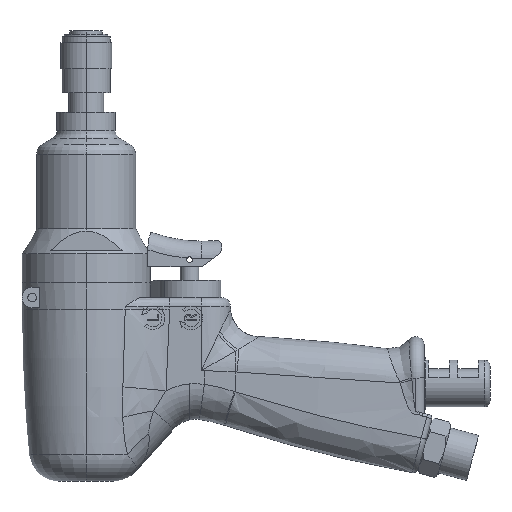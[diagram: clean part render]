
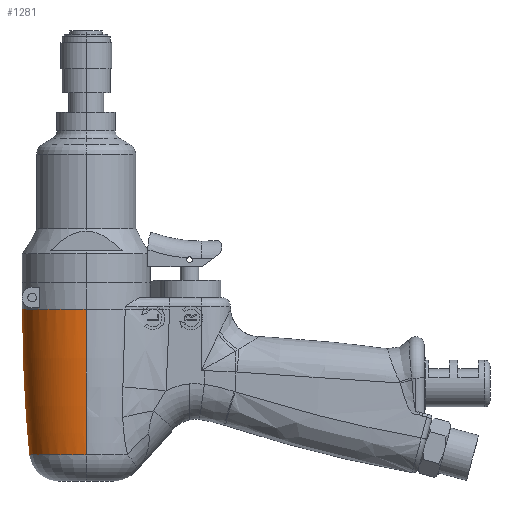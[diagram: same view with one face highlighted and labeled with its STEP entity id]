
A CAD part, left-side view. The second image highlights one B-rep face of the part: STEP entity #1281.
In plain terms, the highlighted toroidal (fillet/blend) face has major radius 478 mm and minor radius 500 mm.
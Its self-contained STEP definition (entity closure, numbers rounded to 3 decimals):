
#1 = VERTEX_POINT ( 'NONE', #2518 ) ;
#6 = VERTEX_POINT ( 'NONE', #2567 ) ;
#61 = EDGE_CURVE ( 'NONE', #6, #1, #2692, .T. ) ;
#1271 = EDGE_CURVE ( 'NONE', #1360, #1272, #5227, .T. ) ;
#1272 = VERTEX_POINT ( 'NONE', #5226 ) ;
#1273 = ORIENTED_EDGE ( 'NONE', *, *, #1274, .T. ) ;
#1274 = EDGE_CURVE ( 'NONE', #1272, #1275, #5283, .T. ) ;
#1275 = VERTEX_POINT ( 'NONE', #5282 ) ;
#1276 = ORIENTED_EDGE ( 'NONE', *, *, #1277, .F. ) ;
#1277 = EDGE_CURVE ( 'NONE', #14606, #1275, #5281, .T. ) ;
#1281 = ADVANCED_FACE ( 'NONE', ( #5263 ), #5262, .T. ) ;
#1282 = EDGE_LOOP ( 'NONE', ( #1283, #1284, #1286, #1287, #1290, #1293, #1358, #1361, #1273, #1276 ) ) ;
#1283 = ORIENTED_EDGE ( 'NONE', *, *, #14604, .T. ) ;
#1284 = ORIENTED_EDGE ( 'NONE', *, *, #1285, .T. ) ;
#1285 = EDGE_CURVE ( 'NONE', #14639, #1, #5255, .T. ) ;
#1286 = ORIENTED_EDGE ( 'NONE', *, *, #61, .F. ) ;
#1287 = ORIENTED_EDGE ( 'NONE', *, *, #1288, .T. ) ;
#1288 = EDGE_CURVE ( 'NONE', #6, #1289, #5308, .T. ) ;
#1289 = VERTEX_POINT ( 'NONE', #5307 ) ;
#1290 = ORIENTED_EDGE ( 'NONE', *, *, #1291, .T. ) ;
#1291 = EDGE_CURVE ( 'NONE', #1289, #1292, #5302, .T. ) ;
#1292 = VERTEX_POINT ( 'NONE', #5301 ) ;
#1293 = ORIENTED_EDGE ( 'NONE', *, *, #1356, .T. ) ;
#1356 = EDGE_CURVE ( 'NONE', #1292, #1357, #5424, .T. ) ;
#1357 = VERTEX_POINT ( 'NONE', #5423 ) ;
#1358 = ORIENTED_EDGE ( 'NONE', *, *, #1359, .T. ) ;
#1359 = EDGE_CURVE ( 'NONE', #1357, #1360, #5415, .T. ) ;
#1360 = VERTEX_POINT ( 'NONE', #5416 ) ;
#1361 = ORIENTED_EDGE ( 'NONE', *, *, #1271, .T. ) ;
#2518 = CARTESIAN_POINT ( 'NONE',  ( -22., 0., -9. ) ) ;
#2567 = CARTESIAN_POINT ( 'NONE',  ( 19.267, 10.621, -9. ) ) ;
#2688 = DIRECTION ( 'NONE',  ( 1., 0., 0. ) ) ;
#2689 = DIRECTION ( 'NONE',  ( 0., 0., 1. ) ) ;
#2690 = CARTESIAN_POINT ( 'NONE',  ( 0., 0., -9. ) ) ;
#2691 = AXIS2_PLACEMENT_3D ( 'NONE', #2690, #2689, #2688 ) ;
#2692 = CIRCLE ( 'NONE', #2691, 22. ) ;
#5222 = CARTESIAN_POINT ( 'NONE',  ( 19.212, 5.419, -54.102 ) ) ;
#5223 = CARTESIAN_POINT ( 'NONE',  ( 19.07, 5.916, -54.125 ) ) ;
#5224 = CARTESIAN_POINT ( 'NONE',  ( 18.918, 6.4, -54.064 ) ) ;
#5225 = CARTESIAN_POINT ( 'NONE',  ( 18.759, 6.871, -53.921 ) ) ;
#5226 = CARTESIAN_POINT ( 'NONE',  ( 19.212, 5.419, -54.102 ) ) ;
#5227 = B_SPLINE_CURVE_WITH_KNOTS ( 'NONE', 3,
 ( #5225, #5224, #5223, #5222 ),
 .UNSPECIFIED., .F., .F.,
 ( 4, 4 ),
 ( 0., 0.002 ),
 .UNSPECIFIED. ) ;
#5252 = DIRECTION ( 'NONE',  ( -1., 0., 0. ) ) ;
#5253 = DIRECTION ( 'NONE',  ( 0., 1., 0. ) ) ;
#5254 = AXIS2_PLACEMENT_3D ( 'NONE', #5261, #5253, #5252 ) ;
#5255 = CIRCLE ( 'NONE', #5254, 500. ) ;
#5257 = DIRECTION ( 'NONE',  ( 1., 0., 0. ) ) ;
#5258 = DIRECTION ( 'NONE',  ( 0., 0., 1. ) ) ;
#5259 = CARTESIAN_POINT ( 'NONE',  ( 0., 0., -9. ) ) ;
#5260 = AXIS2_PLACEMENT_3D ( 'NONE', #5259, #5258, #5257 ) ;
#5261 = CARTESIAN_POINT ( 'NONE',  ( 478., 0., -9. ) ) ;
#5262 = TOROIDAL_SURFACE ( 'NONE', #5260, -478., 500. ) ;
#5263 = FACE_OUTER_BOUND ( 'NONE', #1282, .T. ) ;
#5270 = DIRECTION ( 'NONE',  ( 0., 0., -1. ) ) ;
#5271 = DIRECTION ( 'NONE',  ( 0., -1., 0. ) ) ;
#5272 = CARTESIAN_POINT ( 'NONE',  ( -478., 0., -9. ) ) ;
#5273 = AXIS2_PLACEMENT_3D ( 'NONE', #5272, #5271, #5270 ) ;
#5275 = CARTESIAN_POINT ( 'NONE',  ( 19.983, 0., -53.862 ) ) ;
#5276 = CARTESIAN_POINT ( 'NONE',  ( 19.983, 0.923, -53.862 ) ) ;
#5277 = CARTESIAN_POINT ( 'NONE',  ( 19.917, 1.835, -53.896 ) ) ;
#5278 = CARTESIAN_POINT ( 'NONE',  ( 19.658, 3.64, -53.995 ) ) ;
#5279 = CARTESIAN_POINT ( 'NONE',  ( 19.466, 4.533, -54.06 ) ) ;
#5280 = CARTESIAN_POINT ( 'NONE',  ( 19.212, 5.419, -54.102 ) ) ;
#5281 = CIRCLE ( 'NONE', #5273, 500. ) ;
#5282 = CARTESIAN_POINT ( 'NONE',  ( 19.983, 0., -53.862 ) ) ;
#5283 = B_SPLINE_CURVE_WITH_KNOTS ( 'NONE', 3,
 ( #5280, #5279, #5278, #5277, #5276, #5275 ),
 .UNSPECIFIED., .F., .F.,
 ( 4, 2, 4 ),
 ( 0., 0.003, 0.005 ),
 .UNSPECIFIED. ) ;
#5294 = CARTESIAN_POINT ( 'NONE',  ( 18.788, 11.422, -12.472 ) ) ;
#5295 = CARTESIAN_POINT ( 'NONE',  ( 18.792, 11.422, -12.042 ) ) ;
#5296 = CARTESIAN_POINT ( 'NONE',  ( 18.815, 11.389, -11.618 ) ) ;
#5297 = CARTESIAN_POINT ( 'NONE',  ( 18.899, 11.256, -10.779 ) ) ;
#5298 = CARTESIAN_POINT ( 'NONE',  ( 18.961, 11.155, -10.364 ) ) ;
#5299 = CARTESIAN_POINT ( 'NONE',  ( 19.038, 11.023, -9.963 ) ) ;
#5301 = CARTESIAN_POINT ( 'NONE',  ( 18.788, 11.422, -12.472 ) ) ;
#5302 = B_SPLINE_CURVE_WITH_KNOTS ( 'NONE', 3,
 ( #5299, #5298, #5297, #5296, #5295, #5294 ),
 .UNSPECIFIED., .F., .F.,
 ( 4, 2, 4 ),
 ( 0., 0.001, 0.003 ),
 .UNSPECIFIED. ) ;
#5303 = CARTESIAN_POINT ( 'NONE',  ( 19.038, 11.023, -9.963 ) ) ;
#5304 = CARTESIAN_POINT ( 'NONE',  ( 19.103, 10.912, -9.628 ) ) ;
#5305 = CARTESIAN_POINT ( 'NONE',  ( 19.179, 10.779, -9.307 ) ) ;
#5306 = CARTESIAN_POINT ( 'NONE',  ( 19.267, 10.621, -9. ) ) ;
#5307 = CARTESIAN_POINT ( 'NONE',  ( 19.038, 11.023, -9.963 ) ) ;
#5308 = B_SPLINE_CURVE_WITH_KNOTS ( 'NONE', 3,
 ( #5306, #5305, #5304, #5303 ),
 .UNSPECIFIED., .F., .F.,
 ( 4, 4 ),
 ( 0.007, 0.008 ),
 .UNSPECIFIED. ) ;
#5414 = CARTESIAN_POINT ( 'NONE',  ( 17.148, 11.305, -47.194 ) ) ;
#5415 = B_SPLINE_CURVE_WITH_KNOTS ( 'NONE', 3,
 ( #5414, #5478, #5477, #5476, #5475, #5474, #5473, #5472, #5471, #5470, #5469, #5468, #5467, #5466, #5465, #5464, #5463, #5462 ),
 .UNSPECIFIED., .F., .F.,
 ( 4, 2, 2, 2, 2, 2, 2, 2, 4 ),
 ( 0., 0.001, 0.002, 0.003, 0.004, 0.005, 0.007, 0.008, 0.009 ),
 .UNSPECIFIED. ) ;
#5416 = CARTESIAN_POINT ( 'NONE',  ( 18.759, 6.871, -53.921 ) ) ;
#5417 = CARTESIAN_POINT ( 'NONE',  ( 17.148, 11.305, -47.194 ) ) ;
#5418 = CARTESIAN_POINT ( 'NONE',  ( 17.653, 11.343, -41.42 ) ) ;
#5419 = CARTESIAN_POINT ( 'NONE',  ( 18.04, 11.37, -35.639 ) ) ;
#5420 = CARTESIAN_POINT ( 'NONE',  ( 18.585, 11.408, -24.064 ) ) ;
#5421 = CARTESIAN_POINT ( 'NONE',  ( 18.743, 11.419, -18.269 ) ) ;
#5422 = CARTESIAN_POINT ( 'NONE',  ( 18.788, 11.422, -12.472 ) ) ;
#5423 = CARTESIAN_POINT ( 'NONE',  ( 17.148, 11.305, -47.194 ) ) ;
#5424 = B_SPLINE_CURVE_WITH_KNOTS ( 'NONE', 3,
 ( #5422, #5421, #5420, #5419, #5418, #5417 ),
 .UNSPECIFIED., .F., .F.,
 ( 4, 2, 4 ),
 ( 0., 0.017, 0.035 ),
 .UNSPECIFIED. ) ;
#5462 = CARTESIAN_POINT ( 'NONE',  ( 18.759, 6.871, -53.921 ) ) ;
#5463 = CARTESIAN_POINT ( 'NONE',  ( 18.645, 7.209, -53.818 ) ) ;
#5464 = CARTESIAN_POINT ( 'NONE',  ( 18.529, 7.535, -53.679 ) ) ;
#5465 = CARTESIAN_POINT ( 'NONE',  ( 18.3, 8.149, -53.348 ) ) ;
#5466 = CARTESIAN_POINT ( 'NONE',  ( 18.187, 8.437, -53.154 ) ) ;
#5467 = CARTESIAN_POINT ( 'NONE',  ( 17.968, 8.981, -52.716 ) ) ;
#5468 = CARTESIAN_POINT ( 'NONE',  ( 17.861, 9.239, -52.469 ) ) ;
#5469 = CARTESIAN_POINT ( 'NONE',  ( 17.663, 9.707, -51.938 ) ) ;
#5470 = CARTESIAN_POINT ( 'NONE',  ( 17.572, 9.92, -51.654 ) ) ;
#5471 = CARTESIAN_POINT ( 'NONE',  ( 17.409, 10.305, -51.049 ) ) ;
#5472 = CARTESIAN_POINT ( 'NONE',  ( 17.337, 10.477, -50.727 ) ) ;
#5473 = CARTESIAN_POINT ( 'NONE',  ( 17.22, 10.771, -50.065 ) ) ;
#5474 = CARTESIAN_POINT ( 'NONE',  ( 17.175, 10.895, -49.723 ) ) ;
#5475 = CARTESIAN_POINT ( 'NONE',  ( 17.114, 11.096, -49.016 ) ) ;
#5476 = CARTESIAN_POINT ( 'NONE',  ( 17.099, 11.173, -48.654 ) ) ;
#5477 = CARTESIAN_POINT ( 'NONE',  ( 17.1, 11.275, -47.929 ) ) ;
#5478 = CARTESIAN_POINT ( 'NONE',  ( 17.116, 11.302, -47.563 ) ) ;
#14604 = EDGE_CURVE ( 'NONE', #14606, #14639, #18779, .T. ) ;
#14606 = VERTEX_POINT ( 'NONE', #18770 ) ;
#14639 = VERTEX_POINT ( 'NONE', #18818 ) ;
#18770 = CARTESIAN_POINT ( 'NONE',  ( 19.494, 0., -59. ) ) ;
#18772 = DIRECTION ( 'NONE',  ( 1., 0., 0. ) ) ;
#18774 = DIRECTION ( 'NONE',  ( 0., 0., 1. ) ) ;
#18776 = CARTESIAN_POINT ( 'NONE',  ( 0., 0., -59. ) ) ;
#18778 = AXIS2_PLACEMENT_3D ( 'NONE', #18776, #18774, #18772 ) ;
#18779 = CIRCLE ( 'NONE', #18778, 19.494 ) ;
#18818 = CARTESIAN_POINT ( 'NONE',  ( -19.494, 0., -59. ) ) ;
